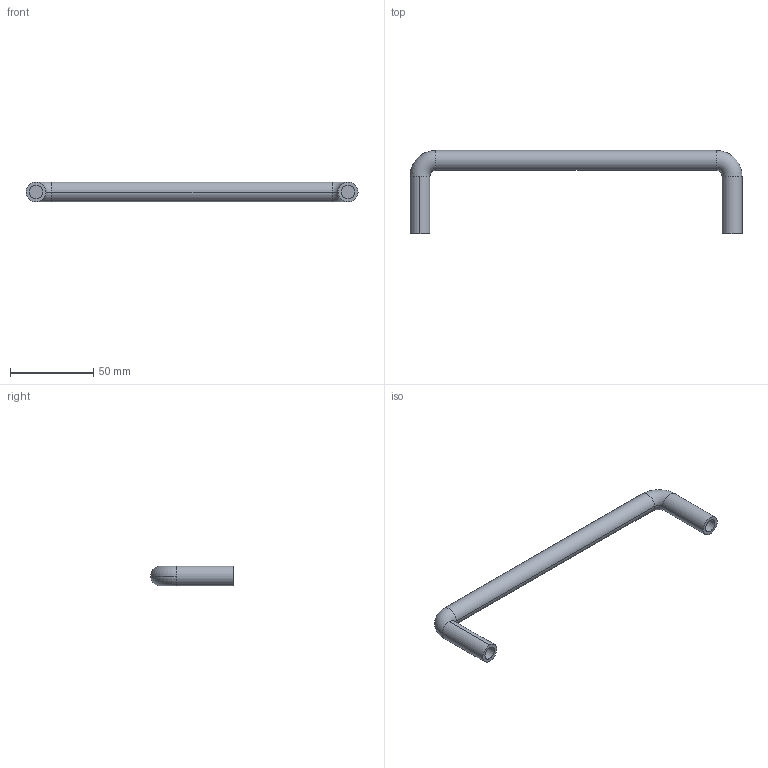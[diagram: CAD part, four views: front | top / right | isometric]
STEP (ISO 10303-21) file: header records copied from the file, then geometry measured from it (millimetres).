
FILE_DESCRIPTION (( 'STEP AP214' ), '1' );
FILE_NAME ('A84 KA-1251-12.STEP', '2012-02-22T02:00:36', ( '' ), ( '' ), 'SwSTEP 2.0', 'SolidWorks 2012', '' );
FILE_SCHEMA (( 'AUTOMOTIVE_DESIGN' ));
Length unit declared in the file: millimetre
Products named in the file (1): A84 KA-1251-12
Bounding box: 200 x 50 x 12 mm (x, y, z)
Volume: 29287.3 mm3; surface area: 10826.4 mm2
Topology: 1 solids, 1 shells, 18 faces, 36 edges, 22 vertices
Faces by surface type: cylinder 10, torus 4, plane 4
Entity records: 512 total; most frequent: DIRECTION 100, CARTESIAN_POINT 77, ORIENTED_EDGE 72, AXIS2_PLACEMENT_3D 45, EDGE_CURVE 36, CIRCLE 26, VERTEX_POINT 22, EDGE_LOOP 20
